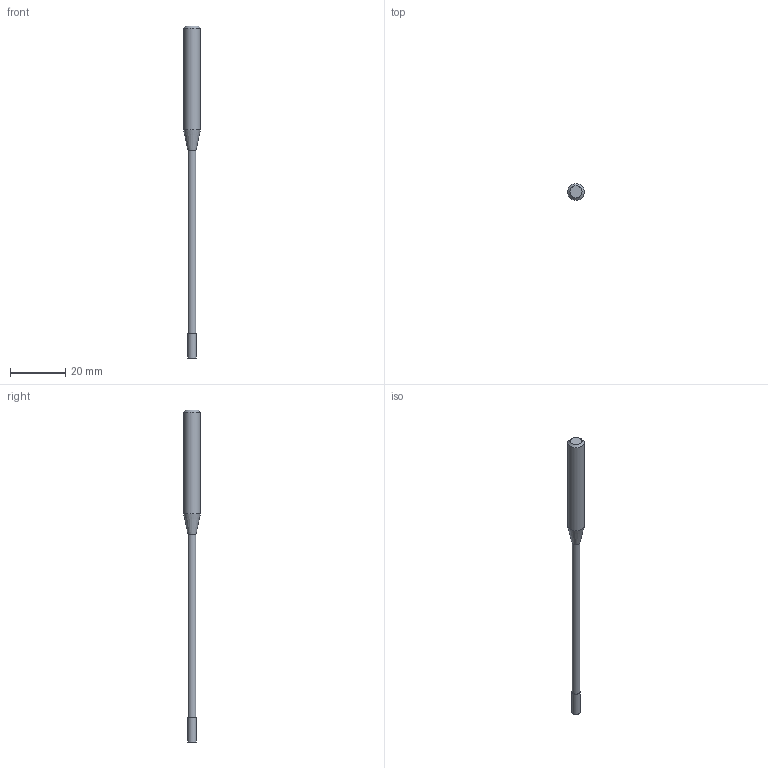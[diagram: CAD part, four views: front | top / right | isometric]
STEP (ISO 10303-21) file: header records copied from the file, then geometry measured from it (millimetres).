
FILE_DESCRIPTION((''),'2;1');
FILE_NAME('C:\Users\nsx150\Desktop\RSE230_20210427\01-00644-03075 RSE230 D3X9X75.step','2021-05-07T14:54:04',(''),(''),'STEP Write','Mastercam 2021 ... CNC Software, Inc.','');
FILE_SCHEMA(('AUTOMOTIVE_DESIGN'));
Length unit declared in the file: millimetre
Products named in the file (1): None
Bounding box: 6 x 6 x 120 mm (x, y, z)
Volume: 1660.8 mm3; surface area: 1528.7 mm2
Topology: 2 solids, 2 shells, 9 faces, 12 edges, 7 vertices
Faces by surface type: plane 4, cylinder 3, cone 2
Full cylindrical faces by diameter (mm): 2.85 x1, 3 x1, 6 x1
Entity records: 211 total; most frequent: DIRECTION 36, CARTESIAN_POINT 25, AXIS2_PLACEMENT_3D 18, ORIENTED_EDGE 14, EDGE_LOOP 14, STYLED_ITEM 12, ADVANCED_FACE 9, FACE_BOUND 8
